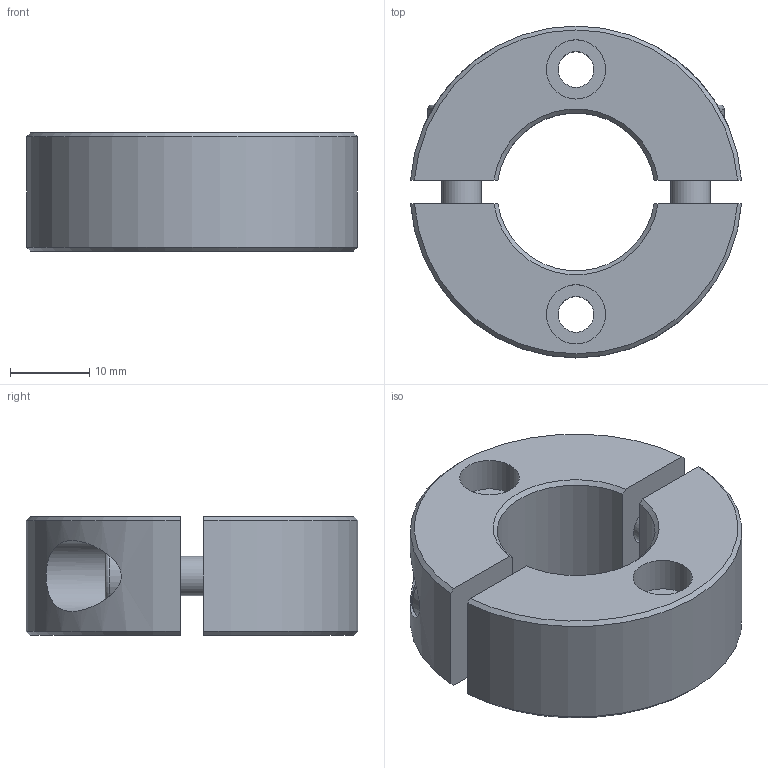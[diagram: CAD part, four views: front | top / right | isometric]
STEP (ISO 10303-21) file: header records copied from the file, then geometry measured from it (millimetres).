
FILE_DESCRIPTION( ( 'STEP AP203' ), '1' );
FILE_NAME( 'C:/Temp/Ganter_Step_05_03_2020/data/3_2/gn7072_2/Split Stainless Steel-Set collar GN 7072.2-42-B20-NI-B.stp', '2020-03-13T05:40:58', ( 'License CC BY-ND 4.0' ), ( 'CADENAS' ), ' ', 'PARTsolutions', ' ' );
FILE_SCHEMA( ( 'CONFIG_CONTROL_DESIGN' ) );
Length unit declared in the file: millimetre
Products named in the file (1): _Split Stainless Steel-Set collar GN 7072.2-42-B20-NI-B
Bounding box: 41.89 x 42 x 15 mm (x, y, z)
Volume: 13751.6 mm3; surface area: 6820 mm2
Topology: 1 solids, 1 shells, 56 faces, 131 edges, 89 vertices
Faces by surface type: plane 30, cylinder 16, cone 8, torus 2
Full cylindrical faces by diameter (mm): 4.5 x2, 5 x2, 5.4 x2, 7.5 x2, 8.5 x2, 9 x2
Entity records: 1704 total; most frequent: CARTESIAN_POINT 451, DIRECTION 246, ORIENTED_EDGE 220, EDGE_CURVE 110, AXIS2_PLACEMENT_3D 97, EDGE_LOOP 88, VERTEX_POINT 82, FACE_OUTER_BOUND 70
